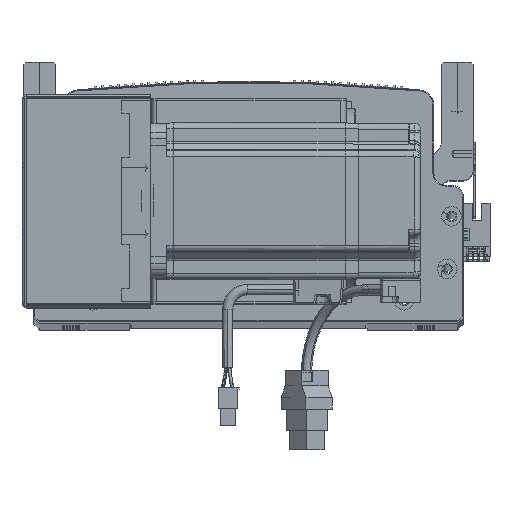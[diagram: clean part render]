
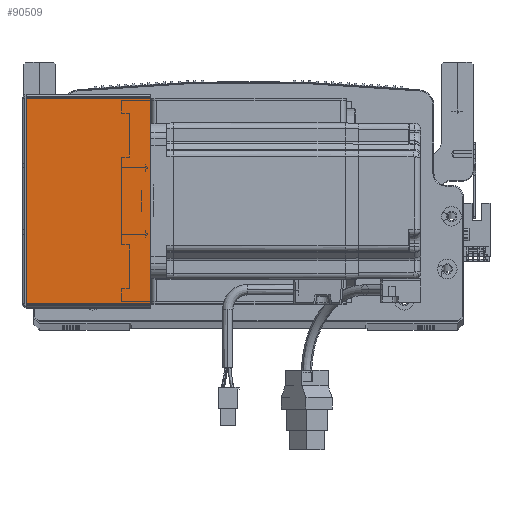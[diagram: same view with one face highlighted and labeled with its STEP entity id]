
A CAD part, top view. The second image highlights one B-rep face of the part: STEP entity #90509.
In plain terms, the highlighted planar face has unit normal (0, 0, 1) as drawn and (0, 0, -1) by its records, which use the part's own axes.
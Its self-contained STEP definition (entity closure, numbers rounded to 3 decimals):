
#891 = DIRECTION ( 'NONE',  ( 0., 0., 1. ) ) ;
#4189 = DIRECTION ( 'NONE',  ( 0., -1., 0. ) ) ;
#7359 = VECTOR ( 'NONE', #85317, 1000. ) ;
#14168 = DIRECTION ( 'NONE',  ( 1., 0., 0. ) ) ;
#14463 = PLANE ( 'NONE',  #44398 ) ;
#15903 = EDGE_CURVE ( 'NONE', #71043, #55574, #28233, .T. ) ;
#19431 = ORIENTED_EDGE ( 'NONE', *, *, #82723, .T. ) ;
#24541 = CARTESIAN_POINT ( 'NONE',  ( 0., 0.707, -205.5 ) ) ;
#28233 = LINE ( 'NONE', #24541, #56869 ) ;
#33906 = VERTEX_POINT ( 'NONE', #73501 ) ;
#34913 = LINE ( 'NONE', #85917, #7359 ) ;
#37035 = ORIENTED_EDGE ( 'NONE', *, *, #15903, .F. ) ;
#37843 = VERTEX_POINT ( 'NONE', #75530 ) ;
#38454 = FACE_OUTER_BOUND ( 'NONE', #68106, .T. ) ;
#44376 = ORIENTED_EDGE ( 'NONE', *, *, #61019, .T. ) ;
#44398 = AXIS2_PLACEMENT_3D ( 'NONE', #63677, #891, #14168 ) ;
#46388 = DIRECTION ( 'NONE',  ( 1., 0., 0. ) ) ;
#50525 = CARTESIAN_POINT ( 'NONE',  ( 0.737, 0., -205.5 ) ) ;
#52541 = CARTESIAN_POINT ( 'NONE',  ( 64.5, 0.707, -205.5 ) ) ;
#55574 = VERTEX_POINT ( 'NONE', #52541 ) ;
#55651 = ORIENTED_EDGE ( 'NONE', *, *, #56627, .F. ) ;
#56627 = EDGE_CURVE ( 'NONE', #37843, #71043, #86013, .T. ) ;
#56869 = VECTOR ( 'NONE', #46388, 1000. ) ;
#58538 = LINE ( 'NONE', #81438, #82832 ) ;
#61019 = EDGE_CURVE ( 'NONE', #37843, #33906, #34913, .T. ) ;
#61780 = VECTOR ( 'NONE', #64649, 1000. ) ;
#63677 = CARTESIAN_POINT ( 'NONE',  ( 0., 0., -205.5 ) ) ;
#64649 = DIRECTION ( 'NONE',  ( 0., -1., 0. ) ) ;
#68106 = EDGE_LOOP ( 'NONE', ( #55651, #44376, #19431, #37035 ) ) ;
#71043 = VERTEX_POINT ( 'NONE', #74187 ) ;
#73501 = CARTESIAN_POINT ( 'NONE',  ( 64.5, 105.293, -205.5 ) ) ;
#74187 = CARTESIAN_POINT ( 'NONE',  ( 0.737, 0.707, -205.5 ) ) ;
#75530 = CARTESIAN_POINT ( 'NONE',  ( 0.737, 105.293, -205.5 ) ) ;
#81438 = CARTESIAN_POINT ( 'NONE',  ( 64.5, 0., -205.5 ) ) ;
#82723 = EDGE_CURVE ( 'NONE', #33906, #55574, #58538, .T. ) ;
#82832 = VECTOR ( 'NONE', #4189, 1000. ) ;
#85317 = DIRECTION ( 'NONE',  ( 1., 0., 0. ) ) ;
#85917 = CARTESIAN_POINT ( 'NONE',  ( 0., 105.293, -205.5 ) ) ;
#86013 = LINE ( 'NONE', #50525, #61780 ) ;
#90509 = ADVANCED_FACE ( 'NONE', ( #38454 ), #14463, .F. ) ;
